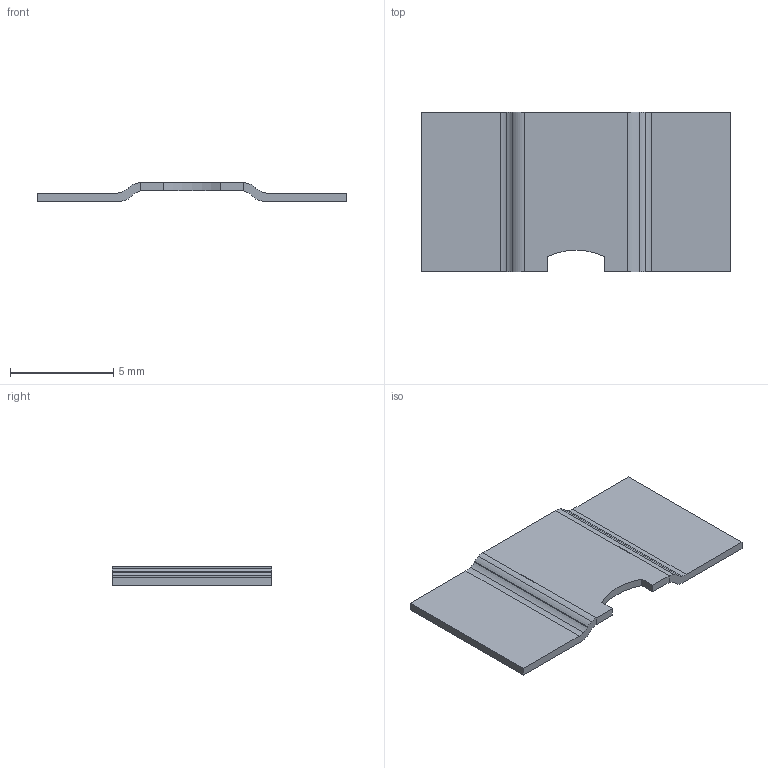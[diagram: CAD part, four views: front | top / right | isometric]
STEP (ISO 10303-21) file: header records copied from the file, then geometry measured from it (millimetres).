
FILE_DESCRIPTION (( 'STEP AP214' ), '1' );
FILE_NAME ('WSLP5931 (0.002).step', '2018-11-05T17:01:20', ( '' ), ( '' ), 'SwSTEP 2.0', 'SolidWorks 2018', '' );
FILE_SCHEMA (( 'AUTOMOTIVE_DESIGN' ));
Length unit declared in the file: millimetre
Products named in the file (1): WSLP5931 (0.002)
Bounding box: 15 x 7.75 x 0.89 mm (x, y, z)
Volume: 46 mm3; surface area: 262.7 mm2
Topology: 3 solids, 3 shells, 42 faces, 108 edges, 72 vertices
Faces by surface type: plane 27, cylinder 15
Entity records: 1334 total; most frequent: DIRECTION 224, CARTESIAN_POINT 223, ORIENTED_EDGE 216, EDGE_CURVE 108, LINE 78, VECTOR 78, AXIS2_PLACEMENT_3D 73, VERTEX_POINT 72
